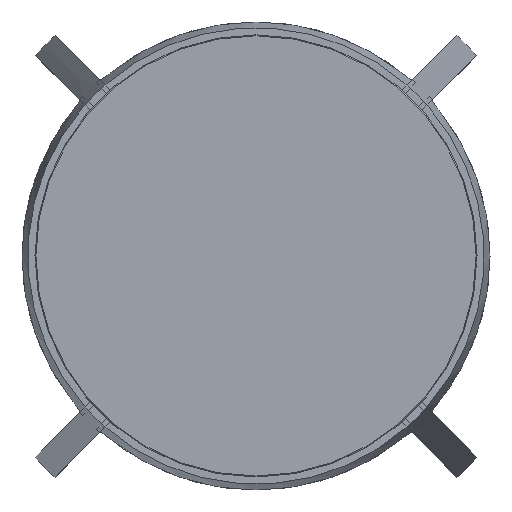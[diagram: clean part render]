
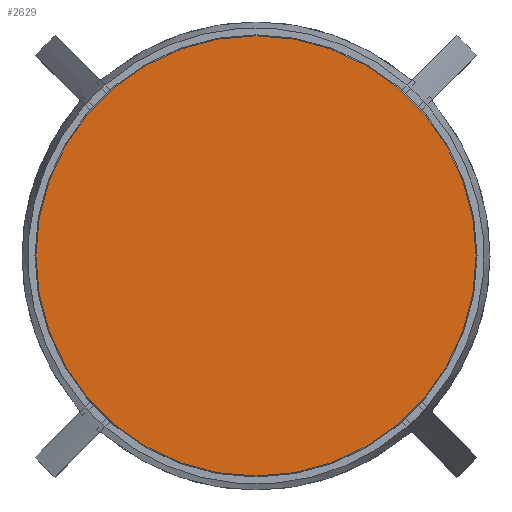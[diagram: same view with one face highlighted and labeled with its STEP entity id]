
A CAD part, top view. The second image highlights one B-rep face of the part: STEP entity #2629.
In plain terms, the highlighted planar face has unit normal (0, 0, 1).
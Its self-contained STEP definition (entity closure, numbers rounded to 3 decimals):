
#111=PLANE('',#3060);
#325=FACE_OUTER_BOUND('',#437,.T.);
#437=EDGE_LOOP('',(#2498));
#1130=CIRCLE('',#3061,234.);
#1579=VERTEX_POINT('',#8213);
#2033=EDGE_CURVE('',#1579,#1579,#1130,.F.);
#2498=ORIENTED_EDGE('',*,*,#2033,.T.);
#2629=ADVANCED_FACE('',(#325),#111,.F.);
#3060=AXIS2_PLACEMENT_3D('',#8212,#3716,#3717);
#3061=AXIS2_PLACEMENT_3D('',#8214,#3718,#3719);
#3716=DIRECTION('center_axis',(0.,0.,-1.));
#3717=DIRECTION('ref_axis',(-1.,0.,0.));
#3718=DIRECTION('center_axis',(0.,0.,-1.));
#3719=DIRECTION('ref_axis',(-1.,0.,0.));
#8212=CARTESIAN_POINT('Origin',(0.,0.,5.));
#8213=CARTESIAN_POINT('',(234.,0.,5.));
#8214=CARTESIAN_POINT('Origin',(0.,0.,5.));
